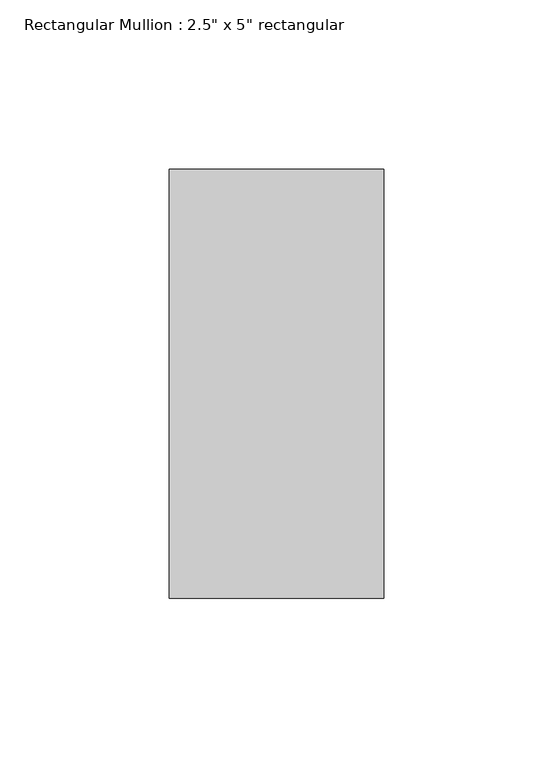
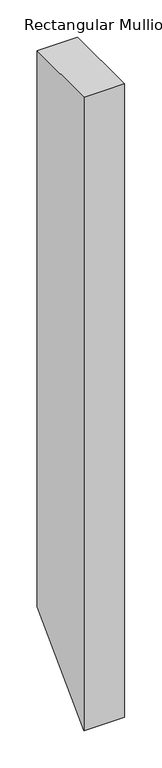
"""IFC4 building model written with IfcOpenShell, lengths in millimetres: member geometry."""

from ifc_helpers import new_model, si_unit, frame, origin, place, context, project, spatial, polyline, outline, extrude, source, transform, mapped, element, save


def member_1f041c37(model_context):
    return source(origin(), model_context, "Body", "SweptSolid", [
        extrude(outline(polyline([(-76.2, 0.0), (50.8, 0.0), (50.8, -915.7607143), (-76.2, -1042.7607143), (-76.2, 0.0)])), frame((-63.5, 0.0, 0.0), z_axis=(1.0, 0.0, 0.0), x_axis=(0.0, 1.0, 0.0)), (0.0, 0.0, 1.0), 63.5),
    ])


if __name__ == "__main__":
    model = new_model("IFC4")
    model_context = context("Model", 3, world=origin())
    ifc_project = project(units=[si_unit("LENGTHUNIT", "METRE", prefix="MILLI")], contexts=[model_context])
    site = spatial("IfcSite", under=ifc_project)
    building = spatial("IfcBuilding", under=site)
    placement = place(None, origin())
    member_shape = member_1f041c37(model_context)
    element("IfcMember", 1, ObjectType="Rectangular Mullion : 2.5\" x 5\" rectangular", at=placement, inside=building, context=model_context, shape_type="MappedRepresentation", body=[
        mapped(member_shape, transform((0.0, 0.0, 0.0), x_axis=(1.0, 0.0, 0.0), y_axis=(0.0, 1.0, 0.0), z_axis=(0.0, 0.0, 1.0))),
    ])
    save(model, "model.ifc")
